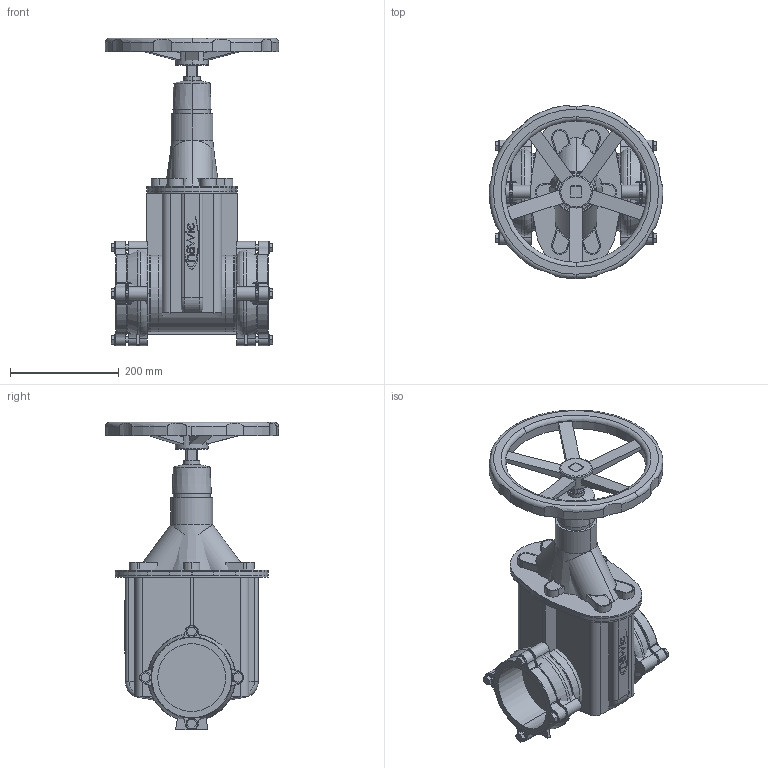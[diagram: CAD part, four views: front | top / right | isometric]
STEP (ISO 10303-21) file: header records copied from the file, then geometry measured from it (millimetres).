
FILE_DESCRIPTION(('STEP AP214'),'1');
FILE_NAME('S:/EK/USER/CAT6/3DHomepage_27-04-2012/4040E2/4040E2_PN16_DN125-125_7800.STP','2013-01-23T15:45:13',(' '),(' '),'Spatial InterOp 3D',' ',' ');
FILE_SCHEMA(('automotive_design'));
Length unit declared in the file: millimetre
Products named in the file (95): 3D-Objekt
Bounding box: 320 x 318.96 x 566 mm (x, y, z)
Volume: 11970380.4 mm3; surface area: 1319591.5 mm2
Topology: 95 solids, 95 shells, 857 faces, 1961 edges, 1306 vertices
Faces by surface type: plane 461, cylinder 338, torus 36, cone 18, bspline 4
Entity records: 33826 total; most frequent: DIRECTION 4677, CARTESIAN_POINT 4581, ORIENTED_EDGE 3922, EDGE_CURVE 1961, AXIS2_PLACEMENT_3D 1778, VERTEX_POINT 1306, LINE 1121, VECTOR 1121
